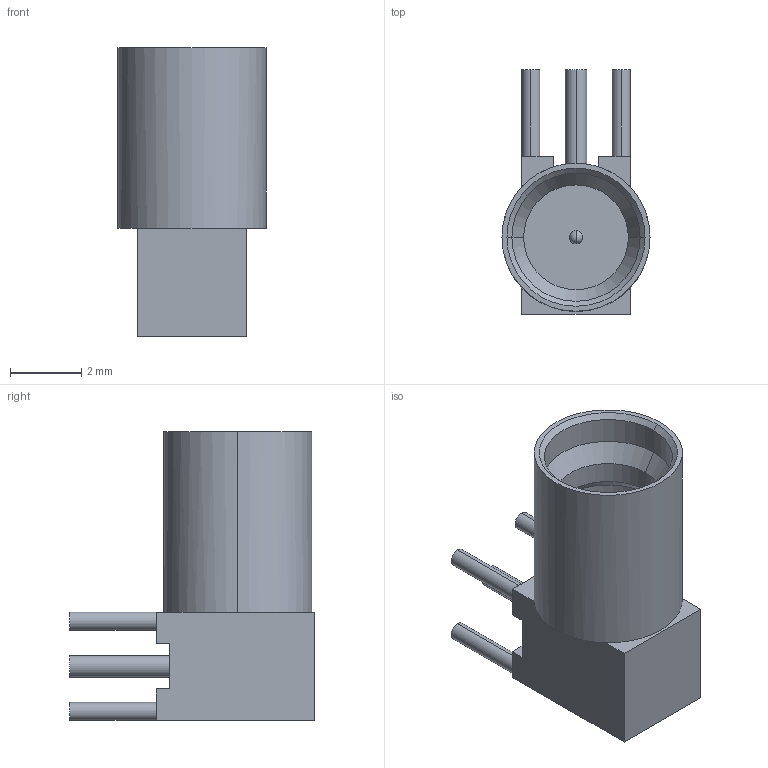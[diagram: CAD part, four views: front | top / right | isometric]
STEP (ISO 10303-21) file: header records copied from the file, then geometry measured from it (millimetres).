
FILE_DESCRIPTION (( 'STEP AP214' ), '1' );
FILE_NAME ('SF1212-6000.STEP', '2015-09-22T21:03:29', ( '' ), ( '' ), 'SwSTEP 2.0', 'SolidWorks 2015', '' );
FILE_SCHEMA (( 'AUTOMOTIVE_DESIGN' ));
Length unit declared in the file: inch
Products named in the file (1): SF1212-6000
Bounding box: 4.17 x 6.88 x 8.13 mm (x, y, z)
Volume: 87 mm3; surface area: 194.1 mm2
Topology: 1 solids, 1 shells, 72 faces, 170 edges, 103 vertices
Faces by surface type: plane 36, cylinder 28, cone 6, sphere 2
Entity records: 2939 total; most frequent: DIRECTION 382, CARTESIAN_POINT 340, ORIENTED_EDGE 332, EDGE_CURVE 166, AXIS2_PLACEMENT_3D 143, VERTEX_POINT 101, LINE 96, VECTOR 96
